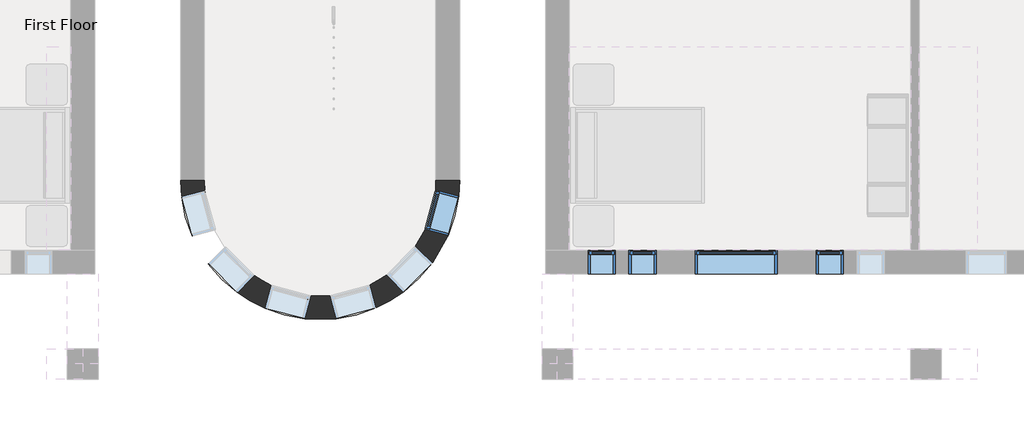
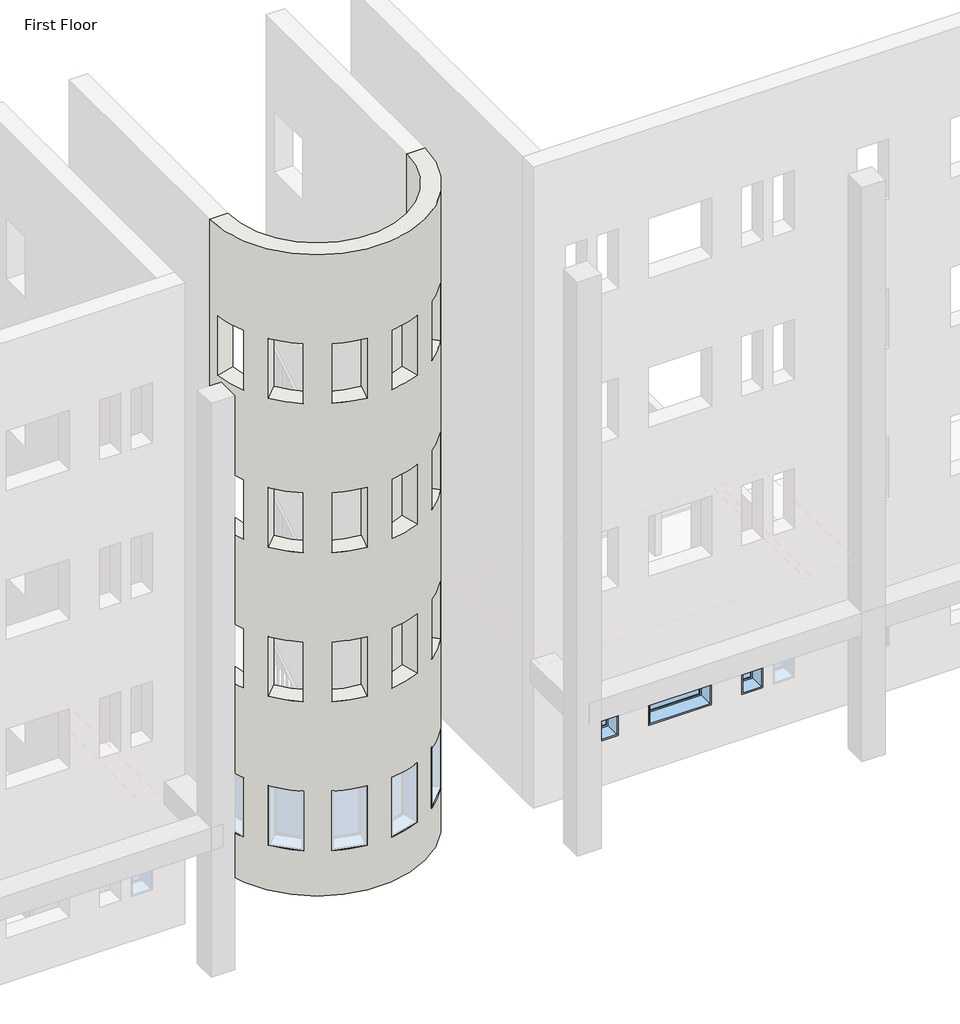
# One storey, part 2 of 21: 5 windows, 1 wall.
"""IFC4 building model written with IfcOpenShell, lengths in millimetres."""

from ifc_helpers import new_model, si_unit, frame, origin, place, context, project, spatial, polyline, circle_curve, transform, mapped, element, save
from ifc_brep_helpers import plane_surface, cylinder_surface, revolved_surface, advanced_brep
from components import window_da97879f, window_d61ef850, window_ed80354a, window_d89bf842

model = new_model("IFC4")

# Units and contexts
model_context = context("Model", 3, world=origin())
ifc_project = project(units=[si_unit("LENGTHUNIT", "METRE", prefix="MILLI")], contexts=[model_context])

# Site, building, storey
site = spatial("IfcSite", under=ifc_project)
building = spatial("IfcBuilding", under=site)
storey = spatial("IfcBuildingStorey", under=building, Name="First Floor", Elevation=0.0)

# Wall
placement = place(None, origin())
element("IfcWall", 1, ObjectType="Exterior - Brick on Mtl. Stud", at=placement, inside=storey, context=model_context, shape_type="AdvancedBrep", body=[
    advanced_brep(
    [(-13206.3839563, -32835.3683133, 13106.4), (-16663.9589563, -32835.3683133, 13106.4), (-17016.3839563, -32835.3683133, 13106.4), (-12853.9589563, -32835.3683133, 13106.4), (-16663.9589563, -32835.3683133, 0.0), (-13206.3839563, -32835.3683133, 0.0), (-12853.9589563, -32835.3683133, 0.0), (-17016.3839563, -32835.3683133, 0.0), (-13368.1055834, -33565.4441794, 8229.6), (-13368.1055834, -33565.4441794, 7010.4), (-13212.1246787, -32976.1377079, 7010.4), (-13212.1246787, -32976.1377079, 8229.6), (-13943.090534, -34251.1654965, 8229.6), (-13943.090534, -34251.1654965, 7010.4), (-13513.3538723, -33818.8015739, 7010.4), (-13513.3538723, -33818.8015739, 8229.6), (-14783.9027666, -34557.5251017, 8229.6), (-14783.9027666, -34557.5251017, 7010.4), (-14195.5579393, -34397.9552919, 7010.4), (-14195.5579393, -34397.9552919, 8229.6), (-15665.2473224, -34402.4341862, 8229.6), (-15665.2473224, -34402.4341862, 7010.4), (-15075.9408509, -34558.4150909, 7010.4), (-15075.9408509, -34558.4150909, 8229.6), (-16350.9686395, -33827.4492356, 8229.6), (-16350.9686395, -33827.4492356, 7010.4), (-15918.6047169, -34257.1858973, 7010.4), (-15918.6047169, -34257.1858973, 8229.6), (-16657.3282447, -32986.637003, 8229.6), (-16657.3282447, -32986.637003, 7010.4), (-16497.7584349, -33574.9818303, 7010.4), (-16497.7584349, -33574.9818303, 8229.6), (-13368.1055834, -33565.4441794, 5181.6), (-13368.1055834, -33565.4441794, 3962.4), (-13212.1246787, -32976.1377079, 3962.4), (-13212.1246787, -32976.1377079, 5181.6), (-13943.090534, -34251.1654965, 5181.6), (-13943.090534, -34251.1654965, 3962.4), (-13513.3538723, -33818.8015739, 3962.4), (-13513.3538723, -33818.8015739, 5181.6), (-14783.9027666, -34557.5251017, 5181.6), (-14783.9027666, -34557.5251017, 3962.4), (-14195.5579393, -34397.9552919, 3962.4), (-14195.5579393, -34397.9552919, 5181.6), (-15665.2473224, -34402.4341862, 5181.6), (-15665.2473224, -34402.4341862, 3962.4), (-15075.9408509, -34558.4150909, 3962.4), (-15075.9408509, -34558.4150909, 5181.6), (-16350.9686395, -33827.4492356, 5181.6), (-16350.9686395, -33827.4492356, 3962.4), (-15918.6047169, -34257.1858973, 3962.4), (-15918.6047169, -34257.1858973, 5181.6), (-16657.3282447, -32986.637003, 5181.6), (-16657.3282447, -32986.637003, 3962.4), (-16497.7584349, -33574.9818303, 3962.4), (-16497.7584349, -33574.9818303, 5181.6), (-13368.1055834, -33565.4441794, 11277.6), (-13368.1055834, -33565.4441794, 10058.4), (-13212.1246787, -32976.1377079, 10058.4), (-13212.1246787, -32976.1377079, 11277.6), (-13943.090534, -34251.1654965, 11277.6), (-13943.090534, -34251.1654965, 10058.4), (-13513.3538723, -33818.8015739, 10058.4), (-13513.3538723, -33818.8015739, 11277.6), (-14783.9027666, -34557.5251017, 11277.6), (-14783.9027666, -34557.5251017, 10058.4), (-14195.5579393, -34397.9552919, 10058.4), (-14195.5579393, -34397.9552919, 11277.6), (-15665.2473224, -34402.4341862, 11277.6), (-15665.2473224, -34402.4341862, 10058.4), (-15075.9408509, -34558.4150909, 10058.4), (-15075.9408509, -34558.4150909, 11277.6), (-16350.9686395, -33827.4492356, 11277.6), (-16350.9686395, -33827.4492356, 10058.4), (-15918.6047169, -34257.1858973, 10058.4), (-15918.6047169, -34257.1858973, 11277.6), (-16657.3282447, -32986.637003, 11277.6), (-16657.3282447, -32986.637003, 10058.4), (-16497.7584349, -33574.9818303, 10058.4), (-16497.7584349, -33574.9818303, 11277.6), (-13368.1055834, -33565.4441794, 2133.6), (-13368.1055834, -33565.4441794, 914.4), (-13212.1246787, -32976.1377079, 914.4), (-13212.1246787, -32976.1377079, 2133.6), (-13943.090534, -34251.1654965, 2133.6), (-13943.090534, -34251.1654965, 914.4), (-13513.3538723, -33818.8015739, 914.4), (-13513.3538723, -33818.8015739, 2133.6), (-14783.9027666, -34557.5251017, 2133.6), (-14783.9027666, -34557.5251017, 914.4), (-14195.5579393, -34397.9552919, 914.4), (-14195.5579393, -34397.9552919, 2133.6), (-15665.2473224, -34402.4341862, 2133.6), (-15665.2473224, -34402.4341862, 914.4), (-15075.9408509, -34558.4150909, 914.4), (-15075.9408509, -34558.4150909, 2133.6), (-16350.9686395, -33827.4492356, 2133.6), (-16350.9686395, -33827.4492356, 914.4), (-15918.6047169, -34257.1858973, 914.4), (-15918.6047169, -34257.1858973, 2133.6), (-16657.3282447, -32986.637003, 914.4), (-16497.7584349, -33574.9818303, 914.4), (-16497.7584349, -33574.9818303, 2133.6), (-16657.3282447, -32986.637003, 2133.6), (-13022.9261748, -33656.8081794, 7010.4), (-13022.9261748, -33656.8081794, 8229.6), (-12866.9452701, -33067.5017078, 8229.6), (-12866.9452701, -33067.5017078, 7010.4), (-13689.8383973, -34502.8787457, 7010.4), (-13689.8383973, -34502.8787457, 8229.6), (-13260.1017356, -34070.5148231, 8229.6), (-13260.1017356, -34070.5148231, 7010.4), (-14690.4366072, -34902.1412384, 7010.4), (-14690.4366072, -34902.1412384, 8229.6), (-14102.0917799, -34742.5714286, 8229.6), (-14102.0917799, -34742.5714286, 7010.4), (-15756.6113224, -34747.6135948, 7010.4), (-15756.6113224, -34747.6135948, 8229.6), (-15167.3048508, -34903.5944995, 8229.6), (-15167.3048508, -34903.5944995, 7010.4), (-16602.6818887, -34080.7013723, 7010.4), (-16602.6818887, -34080.7013723, 8229.6), (-16170.3179661, -34510.4380341, 8229.6), (-16170.3179661, -34510.4380341, 7010.4), (-17001.9443814, -33080.1031624, 7010.4), (-17001.9443814, -33080.1031624, 8229.6), (-16842.3745716, -33668.4479897, 8229.6), (-16842.3745716, -33668.4479897, 7010.4), (-13022.9261748, -33656.8081794, 3962.4), (-13022.9261748, -33656.8081794, 5181.6), (-12866.9452701, -33067.5017078, 5181.6), (-12866.9452701, -33067.5017078, 3962.4), (-13689.8383973, -34502.8787457, 3962.4), (-13689.8383973, -34502.8787457, 5181.6), (-13260.1017356, -34070.5148231, 5181.6), (-13260.1017356, -34070.5148231, 3962.4), (-14690.4366072, -34902.1412384, 3962.4), (-14690.4366072, -34902.1412384, 5181.6), (-14102.0917799, -34742.5714286, 5181.6), (-14102.0917799, -34742.5714286, 3962.4), (-15756.6113224, -34747.6135948, 3962.4), (-15756.6113224, -34747.6135948, 5181.6), (-15167.3048508, -34903.5944995, 5181.6), (-15167.3048508, -34903.5944995, 3962.4), (-16602.6818887, -34080.7013723, 3962.4), (-16602.6818887, -34080.7013723, 5181.6), (-16170.3179661, -34510.4380341, 5181.6), (-16170.3179661, -34510.4380341, 3962.4), (-17001.9443814, -33080.1031624, 3962.4), (-17001.9443814, -33080.1031624, 5181.6), (-16842.3745716, -33668.4479897, 5181.6), (-16842.3745716, -33668.4479897, 3962.4), (-13022.9261748, -33656.8081794, 10058.4), (-13022.9261748, -33656.8081794, 11277.6), (-12866.9452701, -33067.5017078, 11277.6), (-12866.9452701, -33067.5017078, 10058.4), (-13689.8383973, -34502.8787457, 10058.4), (-13689.8383973, -34502.8787457, 11277.6), (-13260.1017356, -34070.5148231, 11277.6), (-13260.1017356, -34070.5148231, 10058.4), (-14690.4366072, -34902.1412384, 10058.4), (-14690.4366072, -34902.1412384, 11277.6), (-14102.0917799, -34742.5714286, 11277.6), (-14102.0917799, -34742.5714286, 10058.4), (-15756.6113224, -34747.6135948, 10058.4), (-15756.6113224, -34747.6135948, 11277.6), (-15167.3048508, -34903.5944995, 11277.6), (-15167.3048508, -34903.5944995, 10058.4), (-16602.6818887, -34080.7013723, 10058.4), (-16602.6818887, -34080.7013723, 11277.6), (-16170.3179661, -34510.4380341, 11277.6), (-16170.3179661, -34510.4380341, 10058.4), (-17001.9443814, -33080.1031624, 10058.4), (-17001.9443814, -33080.1031624, 11277.6), (-16842.3745716, -33668.4479897, 11277.6), (-16842.3745716, -33668.4479897, 10058.4), (-13022.9261748, -33656.8081794, 914.4), (-13022.9261748, -33656.8081794, 2133.6), (-12866.9452701, -33067.5017078, 2133.6), (-12866.9452701, -33067.5017078, 914.4), (-13689.8383973, -34502.8787457, 914.4), (-13689.8383973, -34502.8787457, 2133.6), (-13260.1017356, -34070.5148231, 2133.6), (-13260.1017356, -34070.5148231, 914.4), (-14690.4366072, -34902.1412384, 914.4), (-14690.4366072, -34902.1412384, 2133.6), (-14102.0917799, -34742.5714286, 2133.6), (-14102.0917799, -34742.5714286, 914.4), (-15756.6113224, -34747.6135948, 914.4), (-15756.6113224, -34747.6135948, 2133.6), (-15167.3048508, -34903.5944995, 2133.6), (-15167.3048508, -34903.5944995, 914.4), (-16602.6818887, -34080.7013723, 914.4), (-16602.6818887, -34080.7013723, 2133.6), (-16170.3179661, -34510.4380341, 2133.6), (-16170.3179661, -34510.4380341, 914.4), (-16842.3745716, -33668.4479897, 914.4), (-17001.9443814, -33080.1031624, 914.4), (-17001.9443814, -33080.1031624, 2133.6), (-16842.3745716, -33668.4479897, 2133.6)],
    [
        (0, 1, circle_curve(frame((-14935.1714563, -32835.3683133, 13106.4), z_axis=(0.0, 0.0, -1.0), x_axis=(1.0, 0.0, 0.0)), 1728.7875)),
        (1, 2),
        (2, 3, circle_curve(frame((-14935.1714563, -32835.3683133, 13106.4), z_axis=(0.0, 0.0, 1.0), x_axis=(1.0, 0.0, 0.0)), 2081.2125)),
        (3, 0),
        (4, 5, circle_curve(frame((-14935.1714563, -32835.3683133, 0.0), z_axis=(0.0, 0.0, 1.0), x_axis=(1.0, 0.0, 0.0)), 1728.7875)),
        (5, 6),
        (6, 7, circle_curve(frame((-14935.1714563, -32835.3683133, 0.0), z_axis=(0.0, 0.0, -1.0), x_axis=(1.0, 0.0, 0.0)), 2081.2125)),
        (7, 4),
        (0, 5),
        (4, 1),
        (8, 9),
        (9, 10, circle_curve(frame((-14935.1714563, -32835.3683133, 7010.4), z_axis=(0.0, 0.0, 1.0), x_axis=(1.0, 0.0, 0.0)), 1728.7875)),
        (10, 11),
        (11, 8, circle_curve(frame((-14935.1714563, -32835.3683133, 8229.6), z_axis=(0.0, 0.0, -1.0), x_axis=(1.0, 0.0, 0.0)), 1728.7875)),
        (12, 13),
        (13, 14, circle_curve(frame((-14935.1714563, -32835.3683133, 7010.4), z_axis=(0.0, 0.0, 1.0), x_axis=(1.0, 0.0, 0.0)), 1728.7875)),
        (14, 15),
        (15, 12, circle_curve(frame((-14935.1714563, -32835.3683133, 8229.6), z_axis=(0.0, 0.0, -1.0), x_axis=(1.0, 0.0, 0.0)), 1728.7875)),
        (16, 17),
        (17, 18, circle_curve(frame((-14935.1714563, -32835.3683133, 7010.4), z_axis=(0.0, 0.0, 1.0), x_axis=(1.0, 0.0, 0.0)), 1728.7875)),
        (18, 19),
        (19, 16, circle_curve(frame((-14935.1714563, -32835.3683133, 8229.6), z_axis=(0.0, 0.0, -1.0), x_axis=(1.0, 0.0, 0.0)), 1728.7875)),
        (20, 21),
        (21, 22, circle_curve(frame((-14935.1714563, -32835.3683133, 7010.4), z_axis=(0.0, 0.0, 1.0), x_axis=(1.0, 0.0, 0.0)), 1728.7875)),
        (22, 23),
        (23, 20, circle_curve(frame((-14935.1714563, -32835.3683133, 8229.6), z_axis=(0.0, 0.0, -1.0), x_axis=(1.0, 0.0, 0.0)), 1728.7875)),
        (24, 25),
        (25, 26, circle_curve(frame((-14935.1714563, -32835.3683133, 7010.4), z_axis=(0.0, 0.0, 1.0), x_axis=(1.0, 0.0, 0.0)), 1728.7875)),
        (26, 27),
        (27, 24, circle_curve(frame((-14935.1714563, -32835.3683133, 8229.6), z_axis=(0.0, 0.0, -1.0), x_axis=(1.0, 0.0, 0.0)), 1728.7875)),
        (28, 29),
        (29, 30, circle_curve(frame((-14935.1714563, -32835.3683133, 7010.4), z_axis=(0.0, 0.0, 1.0), x_axis=(1.0, 0.0, 0.0)), 1728.7875)),
        (30, 31),
        (31, 28, circle_curve(frame((-14935.1714563, -32835.3683133, 8229.6), z_axis=(0.0, 0.0, -1.0), x_axis=(1.0, 0.0, 0.0)), 1728.7875)),
        (32, 33),
        (33, 34, circle_curve(frame((-14935.1714563, -32835.3683133, 3962.4), z_axis=(0.0, 0.0, 1.0), x_axis=(1.0, 0.0, 0.0)), 1728.7875)),
        (34, 35),
        (35, 32, circle_curve(frame((-14935.1714563, -32835.3683133, 5181.6), z_axis=(0.0, 0.0, -1.0), x_axis=(1.0, 0.0, 0.0)), 1728.7875)),
        (36, 37),
        (37, 38, circle_curve(frame((-14935.1714563, -32835.3683133, 3962.4), z_axis=(0.0, 0.0, 1.0), x_axis=(1.0, 0.0, 0.0)), 1728.7875)),
        (38, 39),
        (39, 36, circle_curve(frame((-14935.1714563, -32835.3683133, 5181.6), z_axis=(0.0, 0.0, -1.0), x_axis=(1.0, 0.0, 0.0)), 1728.7875)),
        (40, 41),
        (41, 42, circle_curve(frame((-14935.1714563, -32835.3683133, 3962.4), z_axis=(0.0, 0.0, 1.0), x_axis=(1.0, 0.0, 0.0)), 1728.7875)),
        (42, 43),
        (43, 40, circle_curve(frame((-14935.1714563, -32835.3683133, 5181.6), z_axis=(0.0, 0.0, -1.0), x_axis=(1.0, 0.0, 0.0)), 1728.7875)),
        (44, 45),
        (45, 46, circle_curve(frame((-14935.1714563, -32835.3683133, 3962.4), z_axis=(0.0, 0.0, 1.0), x_axis=(1.0, 0.0, 0.0)), 1728.7875)),
        (46, 47),
        (47, 44, circle_curve(frame((-14935.1714563, -32835.3683133, 5181.6), z_axis=(0.0, 0.0, -1.0), x_axis=(1.0, 0.0, 0.0)), 1728.7875)),
        (48, 49),
        (49, 50, circle_curve(frame((-14935.1714563, -32835.3683133, 3962.4), z_axis=(0.0, 0.0, 1.0), x_axis=(1.0, 0.0, 0.0)), 1728.7875)),
        (50, 51),
        (51, 48, circle_curve(frame((-14935.1714563, -32835.3683133, 5181.6), z_axis=(0.0, 0.0, -1.0), x_axis=(1.0, 0.0, 0.0)), 1728.7875)),
        (52, 53),
        (53, 54, circle_curve(frame((-14935.1714563, -32835.3683133, 3962.4), z_axis=(0.0, 0.0, 1.0), x_axis=(1.0, 0.0, 0.0)), 1728.7875)),
        (54, 55),
        (55, 52, circle_curve(frame((-14935.1714563, -32835.3683133, 5181.6), z_axis=(0.0, 0.0, -1.0), x_axis=(1.0, 0.0, 0.0)), 1728.7875)),
        (56, 57),
        (57, 58, circle_curve(frame((-14935.1714563, -32835.3683133, 10058.4), z_axis=(0.0, 0.0, 1.0), x_axis=(1.0, 0.0, 0.0)), 1728.7875)),
        (58, 59),
        (59, 56, circle_curve(frame((-14935.1714563, -32835.3683133, 11277.6), z_axis=(0.0, 0.0, -1.0), x_axis=(1.0, 0.0, 0.0)), 1728.7875)),
        (60, 61),
        (61, 62, circle_curve(frame((-14935.1714563, -32835.3683133, 10058.4), z_axis=(0.0, 0.0, 1.0), x_axis=(1.0, 0.0, 0.0)), 1728.7875)),
        (62, 63),
        (63, 60, circle_curve(frame((-14935.1714563, -32835.3683133, 11277.6), z_axis=(0.0, 0.0, -1.0), x_axis=(1.0, 0.0, 0.0)), 1728.7875)),
        (64, 65),
        (65, 66, circle_curve(frame((-14935.1714563, -32835.3683133, 10058.4), z_axis=(0.0, 0.0, 1.0), x_axis=(1.0, 0.0, 0.0)), 1728.7875)),
        (66, 67),
        (67, 64, circle_curve(frame((-14935.1714563, -32835.3683133, 11277.6), z_axis=(0.0, 0.0, -1.0), x_axis=(1.0, 0.0, 0.0)), 1728.7875)),
        (68, 69),
        (69, 70, circle_curve(frame((-14935.1714563, -32835.3683133, 10058.4), z_axis=(0.0, 0.0, 1.0), x_axis=(1.0, 0.0, 0.0)), 1728.7875)),
        (70, 71),
        (71, 68, circle_curve(frame((-14935.1714563, -32835.3683133, 11277.6), z_axis=(0.0, 0.0, -1.0), x_axis=(1.0, 0.0, 0.0)), 1728.7875)),
        (72, 73),
        (73, 74, circle_curve(frame((-14935.1714563, -32835.3683133, 10058.4), z_axis=(0.0, 0.0, 1.0), x_axis=(1.0, 0.0, 0.0)), 1728.7875)),
        (74, 75),
        (75, 72, circle_curve(frame((-14935.1714563, -32835.3683133, 11277.6), z_axis=(0.0, 0.0, -1.0), x_axis=(1.0, 0.0, 0.0)), 1728.7875)),
        (76, 77),
        (77, 78, circle_curve(frame((-14935.1714563, -32835.3683133, 10058.4), z_axis=(0.0, 0.0, 1.0), x_axis=(1.0, 0.0, 0.0)), 1728.7875)),
        (78, 79),
        (79, 76, circle_curve(frame((-14935.1714563, -32835.3683133, 11277.6), z_axis=(0.0, 0.0, -1.0), x_axis=(1.0, 0.0, 0.0)), 1728.7875)),
        (80, 81),
        (81, 82, circle_curve(frame((-14935.1714563, -32835.3683133, 914.4), z_axis=(0.0, 0.0, 1.0), x_axis=(1.0, 0.0, 0.0)), 1728.7875)),
        (82, 83),
        (83, 80, circle_curve(frame((-14935.1714563, -32835.3683133, 2133.6), z_axis=(0.0, 0.0, -1.0), x_axis=(1.0, 0.0, 0.0)), 1728.7875)),
        (84, 85),
        (85, 86, circle_curve(frame((-14935.1714563, -32835.3683133, 914.4), z_axis=(0.0, 0.0, 1.0), x_axis=(1.0, 0.0, 0.0)), 1728.7875)),
        (86, 87),
        (87, 84, circle_curve(frame((-14935.1714563, -32835.3683133, 2133.6), z_axis=(0.0, 0.0, -1.0), x_axis=(1.0, 0.0, 0.0)), 1728.7875)),
        (88, 89),
        (89, 90, circle_curve(frame((-14935.1714563, -32835.3683133, 914.4), z_axis=(0.0, 0.0, 1.0), x_axis=(1.0, 0.0, 0.0)), 1728.7875)),
        (90, 91),
        (91, 88, circle_curve(frame((-14935.1714563, -32835.3683133, 2133.6), z_axis=(0.0, 0.0, -1.0), x_axis=(1.0, 0.0, 0.0)), 1728.7875)),
        (92, 93),
        (93, 94, circle_curve(frame((-14935.1714563, -32835.3683133, 914.4), z_axis=(0.0, 0.0, 1.0), x_axis=(1.0, 0.0, 0.0)), 1728.7875)),
        (94, 95),
        (95, 92, circle_curve(frame((-14935.1714563, -32835.3683133, 2133.6), z_axis=(0.0, 0.0, -1.0), x_axis=(1.0, 0.0, 0.0)), 1728.7875)),
        (96, 97),
        (97, 98, circle_curve(frame((-14935.1714563, -32835.3683133, 914.4), z_axis=(0.0, 0.0, 1.0), x_axis=(1.0, 0.0, 0.0)), 1728.7875)),
        (98, 99),
        (99, 96, circle_curve(frame((-14935.1714563, -32835.3683133, 2133.6), z_axis=(0.0, 0.0, -1.0), x_axis=(1.0, 0.0, 0.0)), 1728.7875)),
        (100, 101, circle_curve(frame((-14935.1714563, -32835.3683133, 914.4), z_axis=(0.0, 0.0, 1.0), x_axis=(1.0, 0.0, 0.0)), 1728.7875)),
        (101, 102),
        (102, 103, circle_curve(frame((-14935.1714563, -32835.3683133, 2133.6), z_axis=(0.0, 0.0, -1.0), x_axis=(1.0, 0.0, 0.0)), 1728.7875)),
        (103, 100),
        (7, 2),
        (6, 3),
        (104, 105),
        (105, 106, circle_curve(frame((-14935.1714563, -32835.3683133, 8229.6), z_axis=(0.0, 0.0, 1.0), x_axis=(1.0, 0.0, 0.0)), 2081.2125)),
        (106, 107),
        (107, 104, circle_curve(frame((-14935.1714563, -32835.3683133, 7010.4), z_axis=(0.0, 0.0, -1.0), x_axis=(1.0, 0.0, 0.0)), 2081.2125)),
        (108, 109),
        (109, 110, circle_curve(frame((-14935.1714563, -32835.3683133, 8229.6), z_axis=(0.0, 0.0, 1.0), x_axis=(1.0, 0.0, 0.0)), 2081.2125)),
        (110, 111),
        (111, 108, circle_curve(frame((-14935.1714563, -32835.3683133, 7010.4), z_axis=(0.0, 0.0, -1.0), x_axis=(1.0, 0.0, 0.0)), 2081.2125)),
        (112, 113),
        (113, 114, circle_curve(frame((-14935.1714563, -32835.3683133, 8229.6), z_axis=(0.0, 0.0, 1.0), x_axis=(1.0, 0.0, 0.0)), 2081.2125)),
        (114, 115),
        (115, 112, circle_curve(frame((-14935.1714563, -32835.3683133, 7010.4), z_axis=(0.0, 0.0, -1.0), x_axis=(1.0, 0.0, 0.0)), 2081.2125)),
        (116, 117),
        (117, 118, circle_curve(frame((-14935.1714563, -32835.3683133, 8229.6), z_axis=(0.0, 0.0, 1.0), x_axis=(1.0, 0.0, 0.0)), 2081.2125)),
        (118, 119),
        (119, 116, circle_curve(frame((-14935.1714563, -32835.3683133, 7010.4), z_axis=(0.0, 0.0, -1.0), x_axis=(1.0, 0.0, 0.0)), 2081.2125)),
        (120, 121),
        (121, 122, circle_curve(frame((-14935.1714563, -32835.3683133, 8229.6), z_axis=(0.0, 0.0, 1.0), x_axis=(1.0, 0.0, 0.0)), 2081.2125)),
        (122, 123),
        (123, 120, circle_curve(frame((-14935.1714563, -32835.3683133, 7010.4), z_axis=(0.0, 0.0, -1.0), x_axis=(1.0, 0.0, 0.0)), 2081.2125)),
        (124, 125),
        (125, 126, circle_curve(frame((-14935.1714563, -32835.3683133, 8229.6), z_axis=(0.0, 0.0, 1.0), x_axis=(1.0, 0.0, 0.0)), 2081.2125)),
        (126, 127),
        (127, 124, circle_curve(frame((-14935.1714563, -32835.3683133, 7010.4), z_axis=(0.0, 0.0, -1.0), x_axis=(1.0, 0.0, 0.0)), 2081.2125)),
        (128, 129),
        (129, 130, circle_curve(frame((-14935.1714563, -32835.3683133, 5181.6), z_axis=(0.0, 0.0, 1.0), x_axis=(1.0, 0.0, 0.0)), 2081.2125)),
        (130, 131),
        (131, 128, circle_curve(frame((-14935.1714563, -32835.3683133, 3962.4), z_axis=(0.0, 0.0, -1.0), x_axis=(1.0, 0.0, 0.0)), 2081.2125)),
        (132, 133),
        (133, 134, circle_curve(frame((-14935.1714563, -32835.3683133, 5181.6), z_axis=(0.0, 0.0, 1.0), x_axis=(1.0, 0.0, 0.0)), 2081.2125)),
        (134, 135),
        (135, 132, circle_curve(frame((-14935.1714563, -32835.3683133, 3962.4), z_axis=(0.0, 0.0, -1.0), x_axis=(1.0, 0.0, 0.0)), 2081.2125)),
        (136, 137),
        (137, 138, circle_curve(frame((-14935.1714563, -32835.3683133, 5181.6), z_axis=(0.0, 0.0, 1.0), x_axis=(1.0, 0.0, 0.0)), 2081.2125)),
        (138, 139),
        (139, 136, circle_curve(frame((-14935.1714563, -32835.3683133, 3962.4), z_axis=(0.0, 0.0, -1.0), x_axis=(1.0, 0.0, 0.0)), 2081.2125)),
        (140, 141),
        (141, 142, circle_curve(frame((-14935.1714563, -32835.3683133, 5181.6), z_axis=(0.0, 0.0, 1.0), x_axis=(1.0, 0.0, 0.0)), 2081.2125)),
        (142, 143),
        (143, 140, circle_curve(frame((-14935.1714563, -32835.3683133, 3962.4), z_axis=(0.0, 0.0, -1.0), x_axis=(1.0, 0.0, 0.0)), 2081.2125)),
        (144, 145),
        (145, 146, circle_curve(frame((-14935.1714563, -32835.3683133, 5181.6), z_axis=(0.0, 0.0, 1.0), x_axis=(1.0, 0.0, 0.0)), 2081.2125)),
        (146, 147),
        (147, 144, circle_curve(frame((-14935.1714563, -32835.3683133, 3962.4), z_axis=(0.0, 0.0, -1.0), x_axis=(1.0, 0.0, 0.0)), 2081.2125)),
        (148, 149),
        (149, 150, circle_curve(frame((-14935.1714563, -32835.3683133, 5181.6), z_axis=(0.0, 0.0, 1.0), x_axis=(1.0, 0.0, 0.0)), 2081.2125)),
        (150, 151),
        (151, 148, circle_curve(frame((-14935.1714563, -32835.3683133, 3962.4), z_axis=(0.0, 0.0, -1.0), x_axis=(1.0, 0.0, 0.0)), 2081.2125)),
        (152, 153),
        (153, 154, circle_curve(frame((-14935.1714563, -32835.3683133, 11277.6), z_axis=(0.0, 0.0, 1.0), x_axis=(1.0, 0.0, 0.0)), 2081.2125)),
        (154, 155),
        (155, 152, circle_curve(frame((-14935.1714563, -32835.3683133, 10058.4), z_axis=(0.0, 0.0, -1.0), x_axis=(1.0, 0.0, 0.0)), 2081.2125)),
        (156, 157),
        (157, 158, circle_curve(frame((-14935.1714563, -32835.3683133, 11277.6), z_axis=(0.0, 0.0, 1.0), x_axis=(1.0, 0.0, 0.0)), 2081.2125)),
        (158, 159),
        (159, 156, circle_curve(frame((-14935.1714563, -32835.3683133, 10058.4), z_axis=(0.0, 0.0, -1.0), x_axis=(1.0, 0.0, 0.0)), 2081.2125)),
        (160, 161),
        (161, 162, circle_curve(frame((-14935.1714563, -32835.3683133, 11277.6), z_axis=(0.0, 0.0, 1.0), x_axis=(1.0, 0.0, 0.0)), 2081.2125)),
        (162, 163),
        (163, 160, circle_curve(frame((-14935.1714563, -32835.3683133, 10058.4), z_axis=(0.0, 0.0, -1.0), x_axis=(1.0, 0.0, 0.0)), 2081.2125)),
        (164, 165),
        (165, 166, circle_curve(frame((-14935.1714563, -32835.3683133, 11277.6), z_axis=(0.0, 0.0, 1.0), x_axis=(1.0, 0.0, 0.0)), 2081.2125)),
        (166, 167),
        (167, 164, circle_curve(frame((-14935.1714563, -32835.3683133, 10058.4), z_axis=(0.0, 0.0, -1.0), x_axis=(1.0, 0.0, 0.0)), 2081.2125)),
        (168, 169),
        (169, 170, circle_curve(frame((-14935.1714563, -32835.3683133, 11277.6), z_axis=(0.0, 0.0, 1.0), x_axis=(1.0, 0.0, 0.0)), 2081.2125)),
        (170, 171),
        (171, 168, circle_curve(frame((-14935.1714563, -32835.3683133, 10058.4), z_axis=(0.0, 0.0, -1.0), x_axis=(1.0, 0.0, 0.0)), 2081.2125)),
        (172, 173),
        (173, 174, circle_curve(frame((-14935.1714563, -32835.3683133, 11277.6), z_axis=(0.0, 0.0, 1.0), x_axis=(1.0, 0.0, 0.0)), 2081.2125)),
        (174, 175),
        (175, 172, circle_curve(frame((-14935.1714563, -32835.3683133, 10058.4), z_axis=(0.0, 0.0, -1.0), x_axis=(1.0, 0.0, 0.0)), 2081.2125)),
        (176, 177),
        (177, 178, circle_curve(frame((-14935.1714563, -32835.3683133, 2133.6), z_axis=(0.0, 0.0, 1.0), x_axis=(1.0, 0.0, 0.0)), 2081.2125)),
        (178, 179),
        (179, 176, circle_curve(frame((-14935.1714563, -32835.3683133, 914.4), z_axis=(0.0, 0.0, -1.0), x_axis=(1.0, 0.0, 0.0)), 2081.2125)),
        (180, 181),
        (181, 182, circle_curve(frame((-14935.1714563, -32835.3683133, 2133.6), z_axis=(0.0, 0.0, 1.0), x_axis=(1.0, 0.0, 0.0)), 2081.2125)),
        (182, 183),
        (183, 180, circle_curve(frame((-14935.1714563, -32835.3683133, 914.4), z_axis=(0.0, 0.0, -1.0), x_axis=(1.0, 0.0, 0.0)), 2081.2125)),
        (184, 185),
        (185, 186, circle_curve(frame((-14935.1714563, -32835.3683133, 2133.6), z_axis=(0.0, 0.0, 1.0), x_axis=(1.0, 0.0, 0.0)), 2081.2125)),
        (186, 187),
        (187, 184, circle_curve(frame((-14935.1714563, -32835.3683133, 914.4), z_axis=(0.0, 0.0, -1.0), x_axis=(1.0, 0.0, 0.0)), 2081.2125)),
        (188, 189),
        (189, 190, circle_curve(frame((-14935.1714563, -32835.3683133, 2133.6), z_axis=(0.0, 0.0, 1.0), x_axis=(1.0, 0.0, 0.0)), 2081.2125)),
        (190, 191),
        (191, 188, circle_curve(frame((-14935.1714563, -32835.3683133, 914.4), z_axis=(0.0, 0.0, -1.0), x_axis=(1.0, 0.0, 0.0)), 2081.2125)),
        (192, 193),
        (193, 194, circle_curve(frame((-14935.1714563, -32835.3683133, 2133.6), z_axis=(0.0, 0.0, 1.0), x_axis=(1.0, 0.0, 0.0)), 2081.2125)),
        (194, 195),
        (195, 192, circle_curve(frame((-14935.1714563, -32835.3683133, 914.4), z_axis=(0.0, 0.0, -1.0), x_axis=(1.0, 0.0, 0.0)), 2081.2125)),
        (196, 197, circle_curve(frame((-14935.1714563, -32835.3683133, 914.4), z_axis=(0.0, 0.0, -1.0), x_axis=(1.0, 0.0, 0.0)), 2081.2125)),
        (197, 198),
        (198, 199, circle_curve(frame((-14935.1714563, -32835.3683133, 2133.6), z_axis=(0.0, 0.0, 1.0), x_axis=(1.0, 0.0, 0.0)), 2081.2125)),
        (199, 196),
        (8, 105),
        (104, 9),
        (107, 10),
        (106, 11),
        (12, 109),
        (108, 13),
        (111, 14),
        (110, 15),
        (16, 113),
        (112, 17),
        (115, 18),
        (114, 19),
        (20, 117),
        (116, 21),
        (119, 22),
        (118, 23),
        (24, 121),
        (120, 25),
        (123, 26),
        (122, 27),
        (28, 125),
        (124, 29),
        (127, 30),
        (126, 31),
        (32, 129),
        (128, 33),
        (131, 34),
        (130, 35),
        (36, 133),
        (132, 37),
        (135, 38),
        (134, 39),
        (40, 137),
        (136, 41),
        (139, 42),
        (138, 43),
        (44, 141),
        (140, 45),
        (143, 46),
        (142, 47),
        (48, 145),
        (144, 49),
        (147, 50),
        (146, 51),
        (52, 149),
        (148, 53),
        (151, 54),
        (150, 55),
        (56, 153),
        (152, 57),
        (155, 58),
        (154, 59),
        (60, 157),
        (156, 61),
        (159, 62),
        (158, 63),
        (64, 161),
        (160, 65),
        (163, 66),
        (162, 67),
        (68, 165),
        (164, 69),
        (167, 70),
        (166, 71),
        (72, 169),
        (168, 73),
        (171, 74),
        (170, 75),
        (76, 173),
        (172, 77),
        (175, 78),
        (174, 79),
        (80, 177),
        (176, 81),
        (179, 82),
        (178, 83),
        (84, 181),
        (180, 85),
        (183, 86),
        (182, 87),
        (88, 185),
        (184, 89),
        (187, 90),
        (186, 91),
        (92, 189),
        (188, 93),
        (191, 94),
        (190, 95),
        (96, 193),
        (192, 97),
        (195, 98),
        (194, 99),
        (197, 100),
        (103, 198),
        (196, 101),
        (199, 102),
    ],
    [
        plane_surface(frame((-13206.3839563, -32835.3683133, 13106.4), z_axis=(0.0, 0.0, 1.0), x_axis=(0.0, -1.0, 0.0))),
        plane_surface(frame((-13206.3839563, -32835.3683133, 0.0), z_axis=(0.0, 0.0, -1.0), x_axis=(0.0, 1.0, 0.0))),
        revolved_surface(polyline([(-13206.3839563, -32835.3683133, 0.0), (-13206.3839563, -32835.3683133, 13106.4)]), (-14935.1714563, -32835.3683133, 0.0), (0.0, 0.0, -1.0)),
        plane_surface(frame((-16663.9589563, -32835.3683133, 13106.4), z_axis=(0.0, 1.0, 0.0), x_axis=(0.0, 0.0, -1.0))),
        cylinder_surface(frame((-14935.1714563, -32835.3683133, 0.0), z_axis=(0.0, 0.0, 1.0), x_axis=(1.0, 0.0, 0.0)), 2081.2125),
        plane_surface(frame((-12853.9589563, -32835.3683133, 13106.4), z_axis=(0.0, 1.0, 0.0), x_axis=(0.0, 0.0, -1.0))),
        plane_surface(frame((-13368.1055834, -33565.4441794, 8229.6), z_axis=(0.25587418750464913, 0.9667100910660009, 0.0), x_axis=(0.9667100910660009, -0.25587418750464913, 0.0))),
        plane_surface(frame((-13368.1055834, -33565.4441794, 7010.4), z_axis=(0.0, 0.0, 1.0), x_axis=(0.9667100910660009, -0.25587418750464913, 0.0))),
        plane_surface(frame((-13212.1246787, -32976.1377079, 7010.4), z_axis=(-0.25587418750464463, -0.966710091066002, 0.0), x_axis=(0.966710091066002, -0.25587418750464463, 0.0))),
        plane_surface(frame((-13212.1246787, -32976.1377079, 8229.6), z_axis=(0.0, 0.0, -1.0), x_axis=(0.966710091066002, -0.25587418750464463, 0.0))),
        plane_surface(frame((-13943.090534, -34251.1654965, 8229.6), z_axis=(0.7049485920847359, 0.7092584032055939, 0.0), x_axis=(0.7092584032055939, -0.7049485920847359, 0.0))),
        plane_surface(frame((-13943.090534, -34251.1654965, 7010.4), z_axis=(0.0, 0.0, 1.0000000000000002), x_axis=(0.7092584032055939, -0.7049485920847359, 0.0))),
        plane_surface(frame((-13513.3538723, -33818.8015739, 7010.4), z_axis=(-0.7049485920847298, -0.7092584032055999, 0.0), x_axis=(0.7092584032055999, -0.7049485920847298, 0.0))),
        plane_surface(frame((-13513.3538723, -33818.8015739, 8229.6), z_axis=(0.0, 0.0, -1.0), x_axis=(0.7092584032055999, -0.7049485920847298, 0.0))),
        plane_surface(frame((-14783.9027666, -34557.5251017, 8229.6), z_axis=(0.9651325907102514, 0.26176149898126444, 0.0), x_axis=(0.26176149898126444, -0.9651325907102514, 0.0))),
        plane_surface(frame((-14783.9027666, -34557.5251017, 7010.4), z_axis=(0.0, 0.0, 1.0), x_axis=(0.26176149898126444, -0.9651325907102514, 0.0))),
        plane_surface(frame((-14195.5579393, -34397.9552919, 7010.4), z_axis=(-0.9651325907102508, -0.26176149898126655, 0.0), x_axis=(0.26176149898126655, -0.9651325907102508, 0.0))),
        plane_surface(frame((-14195.5579393, -34397.9552919, 8229.6), z_axis=(0.0, 0.0, -1.0000000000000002), x_axis=(0.26176149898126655, -0.9651325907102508, 0.0))),
        plane_surface(frame((-15665.2473224, -34402.4341862, 8229.6), z_axis=(0.9667100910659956, -0.25587418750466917, 0.0), x_axis=(-0.25587418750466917, -0.9667100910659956, 0.0))),
        plane_surface(frame((-15665.2473224, -34402.4341862, 7010.4), z_axis=(0.0, 0.0, 1.0), x_axis=(-0.25587418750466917, -0.9667100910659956, 0.0))),
        plane_surface(frame((-15075.9408509, -34558.4150909, 7010.4), z_axis=(-0.966710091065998, 0.2558741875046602, 0.0), x_axis=(-0.2558741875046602, -0.966710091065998, 0.0))),
        plane_surface(frame((-15075.9408509, -34558.4150909, 8229.6), z_axis=(0.0, 0.0, -1.0000000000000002), x_axis=(-0.2558741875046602, -0.966710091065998, 0.0))),
        plane_surface(frame((-16350.9686395, -33827.4492356, 8229.6), z_axis=(0.7092584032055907, -0.7049485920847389, 0.0), x_axis=(-0.7049485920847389, -0.7092584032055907, 0.0))),
        plane_surface(frame((-16350.9686395, -33827.4492356, 7010.4), z_axis=(0.0, 0.0, 1.0), x_axis=(-0.7049485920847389, -0.7092584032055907, 0.0))),
        plane_surface(frame((-15918.6047169, -34257.1858973, 7010.4), z_axis=(-0.7092584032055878, 0.7049485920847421, 0.0), x_axis=(-0.7049485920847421, -0.7092584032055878, 0.0))),
        plane_surface(frame((-15918.6047169, -34257.1858973, 8229.6), z_axis=(0.0, 0.0, -1.0000000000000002), x_axis=(-0.7049485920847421, -0.7092584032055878, 0.0))),
        plane_surface(frame((-16657.3282447, -32986.637003, 8229.6), z_axis=(0.2617614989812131, -0.9651325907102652, 0.0), x_axis=(-0.9651325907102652, -0.2617614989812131, 0.0))),
        plane_surface(frame((-16657.3282447, -32986.637003, 7010.4), z_axis=(0.0, 0.0, 1.0), x_axis=(-0.9651325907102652, -0.2617614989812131, 0.0))),
        plane_surface(frame((-16497.7584349, -33574.9818303, 7010.4), z_axis=(-0.261761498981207, 0.965132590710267, 0.0), x_axis=(-0.965132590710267, -0.261761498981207, 0.0))),
        plane_surface(frame((-16497.7584349, -33574.9818303, 8229.6), z_axis=(0.0, 0.0, -1.0000000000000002), x_axis=(-0.965132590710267, -0.261761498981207, 0.0))),
        plane_surface(frame((-13368.1055834, -33565.4441794, 5181.6), z_axis=(0.25587418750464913, 0.9667100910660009, 0.0), x_axis=(0.9667100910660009, -0.25587418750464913, 0.0))),
        plane_surface(frame((-13368.1055834, -33565.4441794, 3962.4), z_axis=(0.0, 0.0, 1.0), x_axis=(0.9667100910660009, -0.25587418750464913, 0.0))),
        plane_surface(frame((-13212.1246787, -32976.1377079, 3962.4), z_axis=(-0.25587418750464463, -0.966710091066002, 0.0), x_axis=(0.966710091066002, -0.25587418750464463, 0.0))),
        plane_surface(frame((-13212.1246787, -32976.1377079, 5181.6), z_axis=(0.0, 0.0, -1.0), x_axis=(0.966710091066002, -0.25587418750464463, 0.0))),
        plane_surface(frame((-13943.090534, -34251.1654965, 5181.6), z_axis=(0.7049485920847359, 0.7092584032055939, 0.0), x_axis=(0.7092584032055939, -0.7049485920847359, 0.0))),
        plane_surface(frame((-13943.090534, -34251.1654965, 3962.4), z_axis=(0.0, 0.0, 1.0000000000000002), x_axis=(0.7092584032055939, -0.7049485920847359, 0.0))),
        plane_surface(frame((-13513.3538723, -33818.8015739, 3962.4), z_axis=(-0.7049485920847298, -0.7092584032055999, 0.0), x_axis=(0.7092584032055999, -0.7049485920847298, 0.0))),
        plane_surface(frame((-13513.3538723, -33818.8015739, 5181.6), z_axis=(0.0, 0.0, -1.0), x_axis=(0.7092584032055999, -0.7049485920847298, 0.0))),
        plane_surface(frame((-14783.9027666, -34557.5251017, 5181.6), z_axis=(0.9651325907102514, 0.26176149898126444, 0.0), x_axis=(0.26176149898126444, -0.9651325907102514, 0.0))),
        plane_surface(frame((-14783.9027666, -34557.5251017, 3962.4), z_axis=(0.0, 0.0, 1.0), x_axis=(0.26176149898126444, -0.9651325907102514, 0.0))),
        plane_surface(frame((-14195.5579393, -34397.9552919, 3962.4), z_axis=(-0.9651325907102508, -0.26176149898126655, 0.0), x_axis=(0.26176149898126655, -0.9651325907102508, 0.0))),
        plane_surface(frame((-14195.5579393, -34397.9552919, 5181.6), z_axis=(0.0, 0.0, -1.0000000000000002), x_axis=(0.26176149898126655, -0.9651325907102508, 0.0))),
        plane_surface(frame((-15665.2473224, -34402.4341862, 5181.6), z_axis=(0.9667100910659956, -0.25587418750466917, 0.0), x_axis=(-0.25587418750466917, -0.9667100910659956, 0.0))),
        plane_surface(frame((-15665.2473224, -34402.4341862, 3962.4), z_axis=(0.0, 0.0, 1.0), x_axis=(-0.25587418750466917, -0.9667100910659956, 0.0))),
        plane_surface(frame((-15075.9408509, -34558.4150909, 3962.4), z_axis=(-0.966710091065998, 0.2558741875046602, 0.0), x_axis=(-0.2558741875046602, -0.966710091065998, 0.0))),
        plane_surface(frame((-15075.9408509, -34558.4150909, 5181.6), z_axis=(0.0, 0.0, -1.0000000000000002), x_axis=(-0.2558741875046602, -0.966710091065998, 0.0))),
        plane_surface(frame((-16350.9686395, -33827.4492356, 5181.6), z_axis=(0.7092584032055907, -0.7049485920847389, 0.0), x_axis=(-0.7049485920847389, -0.7092584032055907, 0.0))),
        plane_surface(frame((-16350.9686395, -33827.4492356, 3962.4), z_axis=(0.0, 0.0, 1.0), x_axis=(-0.7049485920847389, -0.7092584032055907, 0.0))),
        plane_surface(frame((-15918.6047169, -34257.1858973, 3962.4), z_axis=(-0.7092584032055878, 0.7049485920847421, 0.0), x_axis=(-0.7049485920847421, -0.7092584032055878, 0.0))),
        plane_surface(frame((-15918.6047169, -34257.1858973, 5181.6), z_axis=(0.0, 0.0, -1.0000000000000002), x_axis=(-0.7049485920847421, -0.7092584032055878, 0.0))),
        plane_surface(frame((-16657.3282447, -32986.637003, 5181.6), z_axis=(0.2617614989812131, -0.9651325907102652, 0.0), x_axis=(-0.9651325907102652, -0.2617614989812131, 0.0))),
        plane_surface(frame((-16657.3282447, -32986.637003, 3962.4), z_axis=(0.0, 0.0, 1.0), x_axis=(-0.9651325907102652, -0.2617614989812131, 0.0))),
        plane_surface(frame((-16497.7584349, -33574.9818303, 3962.4), z_axis=(-0.261761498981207, 0.965132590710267, 0.0), x_axis=(-0.965132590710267, -0.261761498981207, 0.0))),
        plane_surface(frame((-16497.7584349, -33574.9818303, 5181.6), z_axis=(0.0, 0.0, -1.0000000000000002), x_axis=(-0.965132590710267, -0.261761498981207, 0.0))),
        plane_surface(frame((-13368.1055834, -33565.4441794, 11277.6), z_axis=(0.25587418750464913, 0.9667100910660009, 0.0), x_axis=(0.9667100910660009, -0.25587418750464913, 0.0))),
        plane_surface(frame((-13368.1055834, -33565.4441794, 10058.4), z_axis=(0.0, 0.0, 1.0), x_axis=(0.9667100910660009, -0.25587418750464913, 0.0))),
        plane_surface(frame((-13212.1246787, -32976.1377079, 10058.4), z_axis=(-0.25587418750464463, -0.966710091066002, 0.0), x_axis=(0.966710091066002, -0.25587418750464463, 0.0))),
        plane_surface(frame((-13212.1246787, -32976.1377079, 11277.6), z_axis=(0.0, 0.0, -1.0), x_axis=(0.966710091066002, -0.25587418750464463, 0.0))),
        plane_surface(frame((-13943.090534, -34251.1654965, 11277.6), z_axis=(0.7049485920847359, 0.7092584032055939, 0.0), x_axis=(0.7092584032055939, -0.7049485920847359, 0.0))),
        plane_surface(frame((-13943.090534, -34251.1654965, 10058.4), z_axis=(0.0, 0.0, 1.0000000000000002), x_axis=(0.7092584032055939, -0.7049485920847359, 0.0))),
        plane_surface(frame((-13513.3538723, -33818.8015739, 10058.4), z_axis=(-0.7049485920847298, -0.7092584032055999, 0.0), x_axis=(0.7092584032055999, -0.7049485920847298, 0.0))),
        plane_surface(frame((-13513.3538723, -33818.8015739, 11277.6), z_axis=(0.0, 0.0, -1.0), x_axis=(0.7092584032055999, -0.7049485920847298, 0.0))),
        plane_surface(frame((-14783.9027666, -34557.5251017, 11277.6), z_axis=(0.9651325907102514, 0.26176149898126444, 0.0), x_axis=(0.26176149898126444, -0.9651325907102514, 0.0))),
        plane_surface(frame((-14783.9027666, -34557.5251017, 10058.4), z_axis=(0.0, 0.0, 1.0), x_axis=(0.26176149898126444, -0.9651325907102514, 0.0))),
        plane_surface(frame((-14195.5579393, -34397.9552919, 10058.4), z_axis=(-0.9651325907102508, -0.26176149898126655, 0.0), x_axis=(0.26176149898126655, -0.9651325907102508, 0.0))),
        plane_surface(frame((-14195.5579393, -34397.9552919, 11277.6), z_axis=(0.0, 0.0, -1.0000000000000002), x_axis=(0.26176149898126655, -0.9651325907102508, 0.0))),
        plane_surface(frame((-15665.2473224, -34402.4341862, 11277.6), z_axis=(0.9667100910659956, -0.25587418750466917, 0.0), x_axis=(-0.25587418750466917, -0.9667100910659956, 0.0))),
        plane_surface(frame((-15665.2473224, -34402.4341862, 10058.4), z_axis=(0.0, 0.0, 1.0), x_axis=(-0.25587418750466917, -0.9667100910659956, 0.0))),
        plane_surface(frame((-15075.9408509, -34558.4150909, 10058.4), z_axis=(-0.966710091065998, 0.2558741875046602, 0.0), x_axis=(-0.2558741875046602, -0.966710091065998, 0.0))),
        plane_surface(frame((-15075.9408509, -34558.4150909, 11277.6), z_axis=(0.0, 0.0, -1.0000000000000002), x_axis=(-0.2558741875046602, -0.966710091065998, 0.0))),
        plane_surface(frame((-16350.9686395, -33827.4492356, 11277.6), z_axis=(0.7092584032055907, -0.7049485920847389, 0.0), x_axis=(-0.7049485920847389, -0.7092584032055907, 0.0))),
        plane_surface(frame((-16350.9686395, -33827.4492356, 10058.4), z_axis=(0.0, 0.0, 1.0), x_axis=(-0.7049485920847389, -0.7092584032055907, 0.0))),
        plane_surface(frame((-15918.6047169, -34257.1858973, 10058.4), z_axis=(-0.7092584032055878, 0.7049485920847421, 0.0), x_axis=(-0.7049485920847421, -0.7092584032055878, 0.0))),
        plane_surface(frame((-15918.6047169, -34257.1858973, 11277.6), z_axis=(0.0, 0.0, -1.0000000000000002), x_axis=(-0.7049485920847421, -0.7092584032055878, 0.0))),
        plane_surface(frame((-16657.3282447, -32986.637003, 11277.6), z_axis=(0.2617614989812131, -0.9651325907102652, 0.0), x_axis=(-0.9651325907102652, -0.2617614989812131, 0.0))),
        plane_surface(frame((-16657.3282447, -32986.637003, 10058.4), z_axis=(0.0, 0.0, 1.0), x_axis=(-0.9651325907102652, -0.2617614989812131, 0.0))),
        plane_surface(frame((-16497.7584349, -33574.9818303, 10058.4), z_axis=(-0.261761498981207, 0.965132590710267, 0.0), x_axis=(-0.965132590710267, -0.261761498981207, 0.0))),
        plane_surface(frame((-16497.7584349, -33574.9818303, 11277.6), z_axis=(0.0, 0.0, -1.0000000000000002), x_axis=(-0.965132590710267, -0.261761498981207, 0.0))),
        plane_surface(frame((-13368.1055834, -33565.4441794, 2133.6), z_axis=(0.2558741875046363, 0.9667100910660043, 0.0), x_axis=(0.9667100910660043, -0.2558741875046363, 0.0))),
        plane_surface(frame((-13368.1055834, -33565.4441794, 914.4), z_axis=(0.0, 0.0, 1.0), x_axis=(0.9667100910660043, -0.2558741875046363, 0.0))),
        plane_surface(frame((-13212.1246787, -32976.1377079, 914.4), z_axis=(-0.2558741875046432, -0.9667100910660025, 0.0), x_axis=(0.9667100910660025, -0.2558741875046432, 0.0))),
        plane_surface(frame((-13212.1246787, -32976.1377079, 2133.6), z_axis=(0.0, 0.0, -1.0), x_axis=(0.9667100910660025, -0.2558741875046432, 0.0))),
        plane_surface(frame((-13943.090534, -34251.1654965, 2133.6), z_axis=(0.7049485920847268, 0.7092584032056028, 0.0), x_axis=(0.7092584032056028, -0.7049485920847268, 0.0))),
        plane_surface(frame((-13943.090534, -34251.1654965, 914.4), z_axis=(0.0, 0.0, 1.0000000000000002), x_axis=(0.7092584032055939, -0.7049485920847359, 0.0))),
        plane_surface(frame((-13513.3538723, -33818.8015739, 914.4), z_axis=(-0.7049485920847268, -0.709258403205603, 0.0), x_axis=(0.709258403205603, -0.7049485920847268, 0.0))),
        plane_surface(frame((-13513.3538723, -33818.8015739, 2133.6), z_axis=(0.0, 0.0, -1.0000000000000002), x_axis=(0.709258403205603, -0.7049485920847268, 0.0))),
        plane_surface(frame((-14783.9027666, -34557.5251017, 2133.6), z_axis=(0.9651325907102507, 0.261761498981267, 0.0), x_axis=(0.261761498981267, -0.9651325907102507, 0.0))),
        plane_surface(frame((-14783.9027666, -34557.5251017, 914.4), z_axis=(0.0, 0.0, 1.0000000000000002), x_axis=(0.261761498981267, -0.9651325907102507, 0.0))),
        plane_surface(frame((-14195.5579393, -34397.9552919, 914.4), z_axis=(-0.9651325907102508, -0.26176149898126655, 0.0), x_axis=(0.26176149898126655, -0.9651325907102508, 0.0))),
        plane_surface(frame((-14195.5579393, -34397.9552919, 2133.6), z_axis=(0.0, 0.0, -1.0000000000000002), x_axis=(0.26176149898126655, -0.9651325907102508, 0.0))),
        plane_surface(frame((-15665.2473224, -34402.4341862, 2133.6), z_axis=(0.9667100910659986, -0.25587418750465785, 0.0), x_axis=(-0.25587418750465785, -0.9667100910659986, 0.0))),
        plane_surface(frame((-15665.2473224, -34402.4341862, 914.4), z_axis=(0.0, 0.0, 1.0), x_axis=(-0.25587418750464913, -0.9667100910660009, 0.0))),
        plane_surface(frame((-15075.9408509, -34558.4150909, 914.4), z_axis=(-0.9667100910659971, 0.2558741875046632, 0.0), x_axis=(-0.2558741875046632, -0.9667100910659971, 0.0))),
        plane_surface(frame((-15075.9408509, -34558.4150909, 2133.6), z_axis=(0.0, 0.0, -1.0), x_axis=(-0.2558741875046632, -0.9667100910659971, 0.0))),
        plane_surface(frame((-17673.7518014, -35158.3194348, 2133.6), z_axis=(0.7092584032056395, -0.70494859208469, 0.0), x_axis=(0.70494859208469, 0.7092584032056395, 0.0))),
        plane_surface(frame((-17673.7518014, -35158.3194348, 914.4), z_axis=(0.0, 0.0, 1.0), x_axis=(0.70494859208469, 0.7092584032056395, 0.0))),
        plane_surface(frame((-17241.3878788, -35588.0560966, 914.4), z_axis=(-0.7092584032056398, 0.7049485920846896, 0.0), x_axis=(0.7049485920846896, 0.7092584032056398, 0.0))),
        plane_surface(frame((-17241.3878788, -35588.0560966, 2133.6), z_axis=(0.0, 0.0, -1.0), x_axis=(0.7049485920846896, 0.7092584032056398, 0.0))),
        plane_surface(frame((-18468.3271662, -33477.8128238, 2133.6), z_axis=(0.26176149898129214, -0.9651325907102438, 0.0), x_axis=(0.9651325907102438, 0.26176149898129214, 0.0))),
        plane_surface(frame((-18468.3271662, -33477.8128238, 914.4), z_axis=(0.0, 0.0, 1.0), x_axis=(0.9651325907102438, 0.26176149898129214, 0.0))),
        plane_surface(frame((-18308.7573564, -34066.1576511, 914.4), z_axis=(-0.26176149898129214, 0.9651325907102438, 0.0), x_axis=(0.9651325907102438, 0.26176149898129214, 0.0))),
        plane_surface(frame((-18308.7573564, -34066.1576511, 2133.6), z_axis=(0.0, 0.0, -1.0), x_axis=(0.9651325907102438, 0.26176149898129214, 0.0))),
    ],
    [
        (0, [[1, 2, 3, 4]]),
        (1, [[5, 6, 7, 8]]),
        (2, [[-1, 9, -5, 10], [11, 12, 13, 14], [15, 16, 17, 18], [19, 20, 21, 22], [23, 24, 25, 26], [27, 28, 29, 30], [31, 32, 33, 34], [35, 36, 37, 38], [39, 40, 41, 42], [43, 44, 45, 46], [47, 48, 49, 50], [51, 52, 53, 54], [55, 56, 57, 58], [59, 60, 61, 62], [63, 64, 65, 66], [67, 68, 69, 70], [71, 72, 73, 74], [75, 76, 77, 78], [79, 80, 81, 82], [83, 84, 85, 86], [87, 88, 89, 90], [91, 92, 93, 94], [95, 96, 97, 98], [99, 100, 101, 102], [103, 104, 105, 106]]),
        (3, [[-2, -10, -8, 107]]),
        (4, [[-3, -107, -7, 108], [109, 110, 111, 112], [113, 114, 115, 116], [117, 118, 119, 120], [121, 122, 123, 124], [125, 126, 127, 128], [129, 130, 131, 132], [133, 134, 135, 136], [137, 138, 139, 140], [141, 142, 143, 144], [145, 146, 147, 148], [149, 150, 151, 152], [153, 154, 155, 156], [157, 158, 159, 160], [161, 162, 163, 164], [165, 166, 167, 168], [169, 170, 171, 172], [173, 174, 175, 176], [177, 178, 179, 180], [181, 182, 183, 184], [185, 186, 187, 188], [189, 190, 191, 192], [193, 194, 195, 196], [197, 198, 199, 200], [201, 202, 203, 204]]),
        (5, [[-4, -108, -6, -9]]),
        (6, [[-11, 205, -109, 206]]),
        (7, [[-12, -206, -112, 207]]),
        (8, [[-13, -207, -111, 208]]),
        (9, [[-14, -208, -110, -205]]),
        (10, [[-15, 209, -113, 210]]),
        (11, [[-16, -210, -116, 211]]),
        (12, [[-17, -211, -115, 212]]),
        (13, [[-18, -212, -114, -209]]),
        (14, [[-19, 213, -117, 214]]),
        (15, [[-20, -214, -120, 215]]),
        (16, [[-21, -215, -119, 216]]),
        (17, [[-22, -216, -118, -213]]),
        (18, [[-23, 217, -121, 218]]),
        (19, [[-24, -218, -124, 219]]),
        (20, [[-25, -219, -123, 220]]),
        (21, [[-26, -220, -122, -217]]),
        (22, [[-27, 221, -125, 222]]),
        (23, [[-28, -222, -128, 223]]),
        (24, [[-29, -223, -127, 224]]),
        (25, [[-30, -224, -126, -221]]),
        (26, [[-31, 225, -129, 226]]),
        (27, [[-32, -226, -132, 227]]),
        (28, [[-33, -227, -131, 228]]),
        (29, [[-34, -228, -130, -225]]),
        (30, [[-35, 229, -133, 230]]),
        (31, [[-36, -230, -136, 231]]),
        (32, [[-37, -231, -135, 232]]),
        (33, [[-38, -232, -134, -229]]),
        (34, [[-39, 233, -137, 234]]),
        (35, [[-40, -234, -140, 235]]),
        (36, [[-41, -235, -139, 236]]),
        (37, [[-42, -236, -138, -233]]),
        (38, [[-43, 237, -141, 238]]),
        (39, [[-44, -238, -144, 239]]),
        (40, [[-45, -239, -143, 240]]),
        (41, [[-46, -240, -142, -237]]),
        (42, [[-47, 241, -145, 242]]),
        (43, [[-48, -242, -148, 243]]),
        (44, [[-49, -243, -147, 244]]),
        (45, [[-50, -244, -146, -241]]),
        (46, [[-51, 245, -149, 246]]),
        (47, [[-52, -246, -152, 247]]),
        (48, [[-53, -247, -151, 248]]),
        (49, [[-54, -248, -150, -245]]),
        (50, [[-55, 249, -153, 250]]),
        (51, [[-56, -250, -156, 251]]),
        (52, [[-57, -251, -155, 252]]),
        (53, [[-58, -252, -154, -249]]),
        (54, [[-59, 253, -157, 254]]),
        (55, [[-60, -254, -160, 255]]),
        (56, [[-61, -255, -159, 256]]),
        (57, [[-62, -256, -158, -253]]),
        (58, [[-63, 257, -161, 258]]),
        (59, [[-64, -258, -164, 259]]),
        (60, [[-65, -259, -163, 260]]),
        (61, [[-66, -260, -162, -257]]),
        (62, [[-67, 261, -165, 262]]),
        (63, [[-68, -262, -168, 263]]),
        (64, [[-69, -263, -167, 264]]),
        (65, [[-70, -264, -166, -261]]),
        (66, [[-71, 265, -169, 266]]),
        (67, [[-72, -266, -172, 267]]),
        (68, [[-73, -267, -171, 268]]),
        (69, [[-74, -268, -170, -265]]),
        (70, [[-75, 269, -173, 270]]),
        (71, [[-76, -270, -176, 271]]),
        (72, [[-77, -271, -175, 272]]),
        (73, [[-78, -272, -174, -269]]),
        (74, [[-79, 273, -177, 274]]),
        (75, [[-80, -274, -180, 275]]),
        (76, [[-81, -275, -179, 276]]),
        (77, [[-82, -276, -178, -273]]),
        (78, [[-83, 277, -181, 278]]),
        (79, [[-84, -278, -184, 279]]),
        (80, [[-85, -279, -183, 280]]),
        (81, [[-86, -280, -182, -277]]),
        (82, [[-87, 281, -185, 282]]),
        (83, [[-88, -282, -188, 283]]),
        (84, [[-89, -283, -187, 284]]),
        (85, [[-90, -284, -186, -281]]),
        (86, [[-91, 285, -189, 286]]),
        (87, [[-92, -286, -192, 287]]),
        (88, [[-93, -287, -191, 288]]),
        (89, [[-94, -288, -190, -285]]),
        (90, [[-95, 289, -193, 290]]),
        (91, [[-96, -290, -196, 291]]),
        (92, [[-97, -291, -195, 292]]),
        (93, [[-98, -292, -194, -289]]),
        (94, [[293, -197, 294, -99]]),
        (95, [[-294, -200, 295, -100]]),
        (96, [[-295, -199, 296, -101]]),
        (97, [[-293, -102, -296, -198]]),
        (98, [[297, -106, 298, -202]]),
        (99, [[-297, -201, 299, -103]]),
        (100, [[-299, -204, 300, -104]]),
        (101, [[-300, -203, -298, -105]]),
    ],
),
])

# Windows
window_shape = window_da97879f(model_context)
element("IfcWindow", 2, ObjectType="Fixed : 16\" x 48\"", at=placement, inside=storey, context=model_context, shape_type="MappedRepresentation", body=[
    mapped(window_shape, transform((-7291.3589563, -34054.5683133, 0.0), x_axis=(1.0, 0.0, 0.0), y_axis=(0.0, 1.0, 0.0), z_axis=(0.0, 0.0, 1.0))),
])
window_2_shape = window_d61ef850(model_context)
element("IfcWindow", 3, ObjectType="Fixed : 16\" x 48\"", at=placement, inside=storey, context=model_context, shape_type="MappedRepresentation", body=[
    mapped(window_2_shape, transform((-10771.1589563, -34054.5683133, 0.0), x_axis=(-1.0, 0.0, 0.0), y_axis=(0.0, -1.0, 0.0), z_axis=(0.0, 0.0, 1.0))),
])
element("IfcWindow", 4, ObjectType="Fixed : 16\" x 48\"", at=placement, inside=storey, context=model_context, shape_type="MappedRepresentation", body=[
    mapped(window_2_shape, transform((-10161.5589563, -34054.5683133, 0.0), x_axis=(-1.0, 0.0, 0.0), y_axis=(0.0, -1.0, 0.0), z_axis=(0.0, 0.0, 1.0))),
])
window_3_shape = window_ed80354a(model_context)
element("IfcWindow", 5, ObjectType="Fixed : 24\" x 48\"", at=placement, inside=storey, context=model_context, shape_type="MappedRepresentation", body=[
    mapped(window_3_shape, transform((-13129.5175357, -33352.7108284, 0.0), x_axis=(-0.2558741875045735, -0.9667100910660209, 0.0), y_axis=(0.9667100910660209, -0.2558741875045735, 0.0), z_axis=(0.0, 0.0, 1.0))),
])
window_4_shape = window_d89bf842(model_context)
element("IfcWindow", 6, ObjectType="Fixed : 48\" x 48\"", at=placement, inside=storey, context=model_context, shape_type="MappedRepresentation", body=[
    mapped(window_4_shape, transform((-8764.5589563, -34054.5683133, 0.0), x_axis=(-1.0, 0.0, 0.0), y_axis=(0.0, -1.0, 0.0), z_axis=(0.0, 0.0, 1.0))),
])

save(model, "model.ifc")
